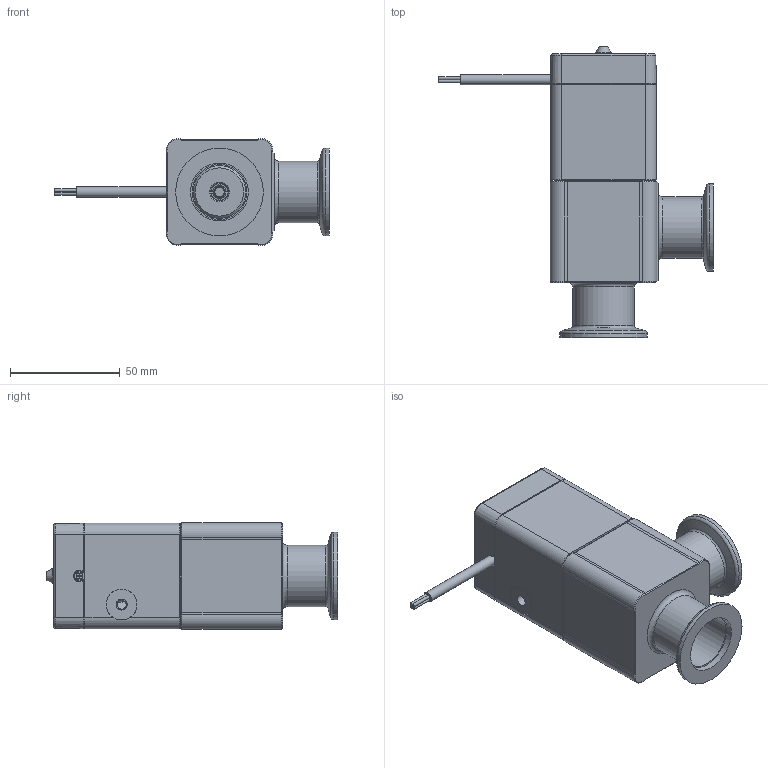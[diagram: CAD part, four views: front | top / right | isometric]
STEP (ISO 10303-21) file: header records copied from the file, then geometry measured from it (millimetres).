
FILE_DESCRIPTION(/* description */ (''),/* implementation_level */ '2;1');
FILE_NAME(/* name */ '1714731890_203.stp',/* time_stamp */ '2013-07-17T10:21:56+02:00',/* author */ (''),/* organization */ (''),/* preprocessor_version */ 'ST-DEVELOPER v11',/* originating_system */ 'SIEMENS PLM Software NX 7.5',/* authorisation */ '');
FILE_SCHEMA (('AP203_CONFIGURATION_CONTROLLED_3D_DESIGN_OF_MECHANICAL_PARTS_AND_ASSEMBLIES_MIM_LF'));
Length unit declared in the file: millimetre
Products named in the file (10): 239888_6.1; 233359; 236208.2; 236204_1.1; 239359.4; 245188.1; 243878.2; 232362.12; 233248_NX-ARRAGMNTGerades Kabel; 701701
Assembly tree (14 placements, depth 3):
  701701
    232362.12
    243878.2
    245188.1  x4
    239359.4
    233248_NX-ARRAGMNTGerades Kabel
      236204_1.1  x2
      236208.2  x2
      233359
      239888_6.1
Bounding box: 125 x 132.51 x 48.57 mm (x, y, z)
Volume: 142313.3 mm3; surface area: 73361 mm2
Topology: 21 solids, 21 shells, 646 faces, 1539 edges, 993 vertices
Faces by surface type: plane 357, cylinder 156, cone 97, bspline 23, torus 11, sphere 2
Full cylindrical faces by diameter (mm): 1.4 x8, 2 x6, 2.2 x4, 2.5 x3, 2.95 x1, 3 x7, 3.2 x4, 3.26 x4, 3.3 x4, 4 x12, 4.2 x1, 4.4 x1, 4.5 x4, 4.6 x1, 4.7 x3, 5 x1, 5.1 x1, 5.6 x2, 6 x3, 7 x4, 7.4 x1, 7.975 x3, 8 x5, 8.012 x2, 9.25 x1, 11.5 x1, 14 x1, 24 x1, 25 x2, 26.3 x2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
Entity records: 17060 total; most frequent: CARTESIAN_POINT 3434, DIRECTION 2511, ORIENTED_EDGE 2220, EDGE_CURVE 1110, AXIS2_PLACEMENT_3D 930, VERTEX_POINT 806, EDGE_LOOP 780, LINE 651
